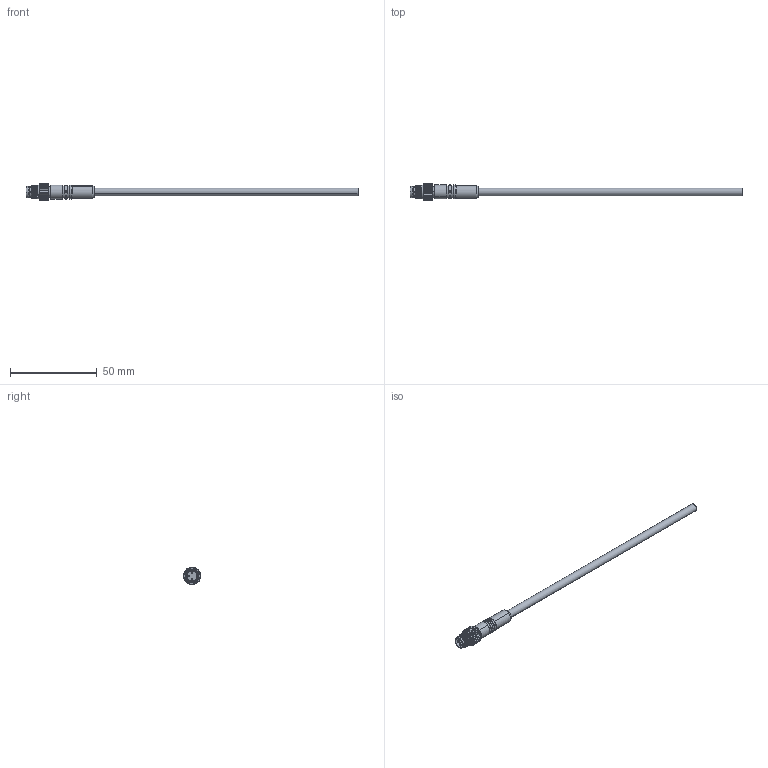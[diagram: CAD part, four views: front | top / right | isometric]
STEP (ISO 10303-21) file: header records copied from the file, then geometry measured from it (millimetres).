
FILE_DESCRIPTION (( 'STEP AP214' ), '1' );
FILE_NAME ('NAN-T-3MP-ZZ.STEP', '2020-05-28T18:04:50', ( '' ), ( '' ), 'SwSTEP 2.0', 'SolidWorks 2018', '' );
FILE_SCHEMA (( 'AUTOMOTIVE_DESIGN' ));
Length unit declared in the file: millimetre
Products named in the file (2): NAN-T-3MP-ZZ
Bounding box: 191.66 x 10.08 x 10.09 mm (x, y, z)
Volume: 4212.4 mm3; surface area: 3536 mm2
Topology: 1 solids, 1 shells, 189 faces, 483 edges, 310 vertices
Faces by surface type: plane 79, cylinder 69, torus 28, cone 10, bspline 3
Entity records: 9011 total; most frequent: CARTESIAN_POINT 2490, ORIENTED_EDGE 966, DIRECTION 893, EDGE_CURVE 483, AXIS2_PLACEMENT_3D 375, VERTEX_POINT 310, EDGE_LOOP 203, UNCERTAINTY_MEASURE_WITH_UNIT 190
